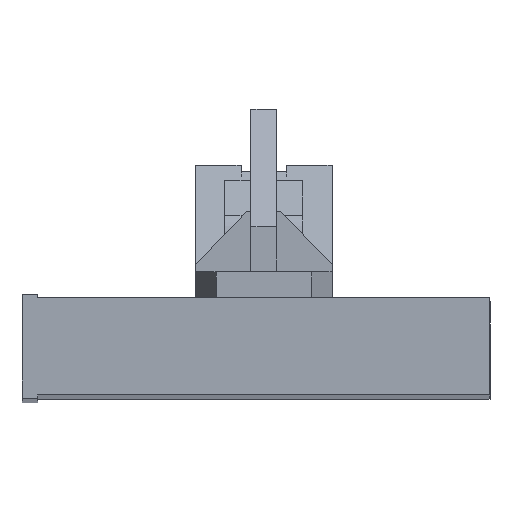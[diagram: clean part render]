
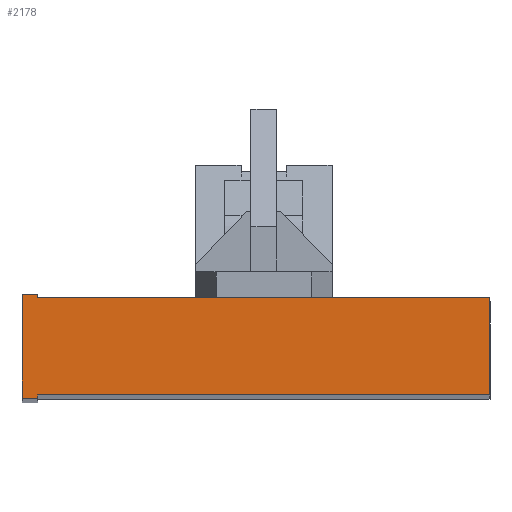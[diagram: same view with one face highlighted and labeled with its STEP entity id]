
A CAD part, top view. The second image highlights one B-rep face of the part: STEP entity #2178.
In plain terms, the highlighted planar face has unit normal (0, 0, 1).
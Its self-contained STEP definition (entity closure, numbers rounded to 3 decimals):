
#9 = DIRECTION ( 'NONE',  ( 0., 1., 0. ) ) ;
#71 = VECTOR ( 'NONE', #2153, 1000. ) ;
#79 = VERTEX_POINT ( 'NONE', #656 ) ;
#125 = VERTEX_POINT ( 'NONE', #1255 ) ;
#144 = CARTESIAN_POINT ( 'NONE',  ( 2.9, -44.75, 149.2 ) ) ;
#155 = ORIENTED_EDGE ( 'NONE', *, *, #780, .F. ) ;
#246 = CARTESIAN_POINT ( 'NONE',  ( 4.1, -37., 149.2 ) ) ;
#373 = LINE ( 'NONE', #1150, #1732 ) ;
#398 = DIRECTION ( 'NONE',  ( 1., 0., 0. ) ) ;
#440 = CARTESIAN_POINT ( 'NONE',  ( 38.9, -44.5, 149.2 ) ) ;
#577 = LINE ( 'NONE', #959, #71 ) ;
#590 = VECTOR ( 'NONE', #1069, 1000. ) ;
#616 = DIRECTION ( 'NONE',  ( 0., 0., -1. ) ) ;
#626 = CARTESIAN_POINT ( 'NONE',  ( 4.1, -44.75, 149.2 ) ) ;
#656 = CARTESIAN_POINT ( 'NONE',  ( 2.9, -36.75, 149.2 ) ) ;
#701 = EDGE_CURVE ( 'NONE', #2269, #1435, #1681, .T. ) ;
#732 = VECTOR ( 'NONE', #736, 1000. ) ;
#736 = DIRECTION ( 'NONE',  ( -1., 0., 0. ) ) ;
#776 = LINE ( 'NONE', #1355, #2207 ) ;
#780 = EDGE_CURVE ( 'NONE', #1435, #79, #776, .T. ) ;
#786 = LINE ( 'NONE', #802, #2102 ) ;
#802 = CARTESIAN_POINT ( 'NONE',  ( 4.1, -36.75, 149.2 ) ) ;
#822 = LINE ( 'NONE', #1038, #590 ) ;
#947 = FACE_OUTER_BOUND ( 'NONE', #1784, .T. ) ;
#959 = CARTESIAN_POINT ( 'NONE',  ( 4.1, -44.5, 149.2 ) ) ;
#980 = EDGE_CURVE ( 'NONE', #2226, #2269, #786, .T. ) ;
#981 = DIRECTION ( 'NONE',  ( 0., -1., 0. ) ) ;
#1038 = CARTESIAN_POINT ( 'NONE',  ( 4.1, -36.75, 149.2 ) ) ;
#1069 = DIRECTION ( 'NONE',  ( 0., -1., 0. ) ) ;
#1098 = ORIENTED_EDGE ( 'NONE', *, *, #1388, .F. ) ;
#1150 = CARTESIAN_POINT ( 'NONE',  ( 38.9, -37., 149.2 ) ) ;
#1221 = DIRECTION ( 'NONE',  ( -1., 0., 0. ) ) ;
#1255 = CARTESIAN_POINT ( 'NONE',  ( 4.1, -36.75, 149.2 ) ) ;
#1271 = VERTEX_POINT ( 'NONE', #440 ) ;
#1329 = VECTOR ( 'NONE', #1221, 1000. ) ;
#1341 = ORIENTED_EDGE ( 'NONE', *, *, #1535, .F. ) ;
#1355 = CARTESIAN_POINT ( 'NONE',  ( 2.9, -44.75, 149.2 ) ) ;
#1388 = EDGE_CURVE ( 'NONE', #79, #125, #1489, .T. ) ;
#1409 = LINE ( 'NONE', #1984, #1329 ) ;
#1435 = VERTEX_POINT ( 'NONE', #144 ) ;
#1489 = LINE ( 'NONE', #1721, #1940 ) ;
#1514 = ORIENTED_EDGE ( 'NONE', *, *, #2293, .F. ) ;
#1527 = ORIENTED_EDGE ( 'NONE', *, *, #701, .F. ) ;
#1535 = EDGE_CURVE ( 'NONE', #1992, #1271, #373, .T. ) ;
#1573 = PLANE ( 'NONE',  #2338 ) ;
#1583 = EDGE_CURVE ( 'NONE', #1271, #2226, #577, .T. ) ;
#1681 = LINE ( 'NONE', #2484, #732 ) ;
#1721 = CARTESIAN_POINT ( 'NONE',  ( 2.9, -36.75, 149.2 ) ) ;
#1732 = VECTOR ( 'NONE', #1927, 1000. ) ;
#1784 = EDGE_LOOP ( 'NONE', ( #2391, #1341, #2354, #1514, #1098, #155, #1527, #2117 ) ) ;
#1785 = CARTESIAN_POINT ( 'NONE',  ( 4.1, -44.5, 149.2 ) ) ;
#1927 = DIRECTION ( 'NONE',  ( 0., -1., 0. ) ) ;
#1940 = VECTOR ( 'NONE', #2451, 1000. ) ;
#1955 = CARTESIAN_POINT ( 'NONE',  ( 38.9, -37., 149.2 ) ) ;
#1984 = CARTESIAN_POINT ( 'NONE',  ( 4.1, -37., 149.2 ) ) ;
#1992 = VERTEX_POINT ( 'NONE', #1955 ) ;
#2062 = EDGE_CURVE ( 'NONE', #1992, #2238, #1409, .T. ) ;
#2102 = VECTOR ( 'NONE', #981, 1000. ) ;
#2117 = ORIENTED_EDGE ( 'NONE', *, *, #980, .F. ) ;
#2153 = DIRECTION ( 'NONE',  ( -1., 0., 0. ) ) ;
#2178 = ADVANCED_FACE ( 'NONE', ( #947 ), #1573, .F. ) ;
#2207 = VECTOR ( 'NONE', #9, 1000. ) ;
#2226 = VERTEX_POINT ( 'NONE', #1785 ) ;
#2238 = VERTEX_POINT ( 'NONE', #246 ) ;
#2269 = VERTEX_POINT ( 'NONE', #626 ) ;
#2293 = EDGE_CURVE ( 'NONE', #125, #2238, #822, .T. ) ;
#2338 = AXIS2_PLACEMENT_3D ( 'NONE', #2521, #616, #398 ) ;
#2354 = ORIENTED_EDGE ( 'NONE', *, *, #2062, .T. ) ;
#2391 = ORIENTED_EDGE ( 'NONE', *, *, #1583, .F. ) ;
#2451 = DIRECTION ( 'NONE',  ( 1., 0., 0. ) ) ;
#2484 = CARTESIAN_POINT ( 'NONE',  ( 4.1, -44.75, 149.2 ) ) ;
#2521 = CARTESIAN_POINT ( 'NONE',  ( 4.1, -37., 149.2 ) ) ;
